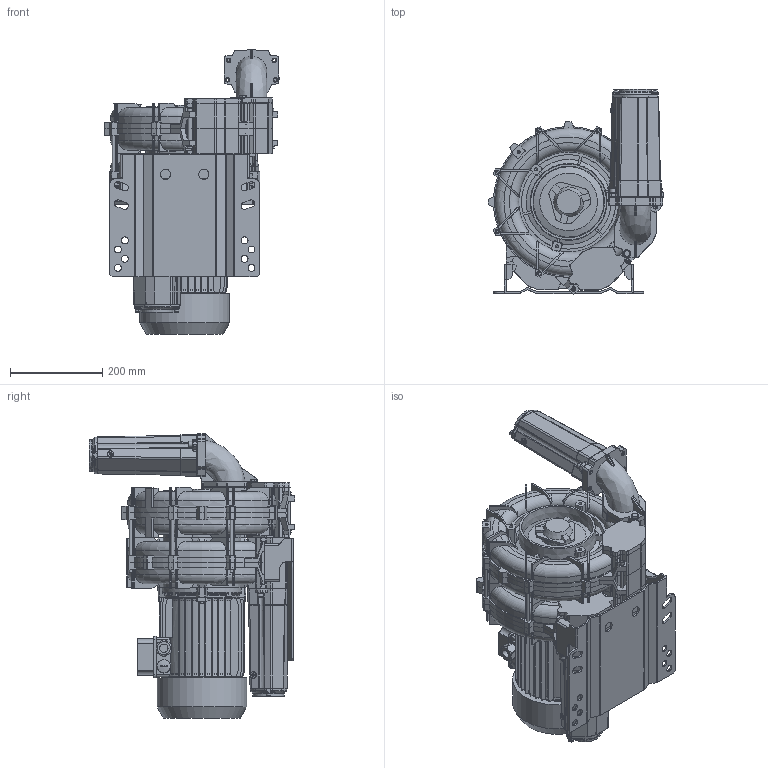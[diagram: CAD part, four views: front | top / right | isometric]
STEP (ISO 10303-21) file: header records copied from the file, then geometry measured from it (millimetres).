
FILE_DESCRIPTION (( 'STEP AP203' ), '1' );
FILE_NAME ('STP-L_e_05_TD_MOR_IE3WR_100_4.0kW-3_25-00.step', '2025-04-30T09:50:23', ( '' ), ( '' ), 'SwSTEP 2.0', 'SolidWorks 2024', '' );
FILE_SCHEMA (( 'CONFIG_CONTROL_DESIGN' ));
Products named in the file (1): STP-L_e_05_TD_MOR_IE3WR_100_4.0kW-3_25-00
Bounding box: 380.8 x 445.99 x 617.3 mm (x, y, z)
Volume: 24870289.2 mm3; surface area: 2347361.3 mm2
Topology: 94 solids, 94 shells, 4788 faces, 12791 edges, 8194 vertices
Faces by surface type: plane 2314, cylinder 1275, cone 545, bspline 365, torus 288, sphere 1
Full cylindrical faces by diameter (mm): 4 x8, 4.917 x11, 5 x12, 6 x19, 6.4 x19, 6.8 x7, 7 x4, 7.5 x4, 8 x26, 8.4 x6, 8.5 x8, 8.566 x2, 8.8 x2, 9 x1, 9.728 x2, 9.98 x2, 10 x45, 12 x2, 12.02 x2, 13 x10, 14 x2, 15 x8, 15.842 x1, 15.965 x1, 16 x4, 18 x2, 20 x1, 21.4 x1, 22 x2, 24 x4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
Entity records: 159641 total; most frequent: CARTESIAN_POINT 45870, ORIENTED_EDGE 24066, DIRECTION 22710, EDGE_CURVE 12033, AXIS2_PLACEMENT_3D 8214, VERTEX_POINT 8027, VECTOR 6282, LINE 6282
